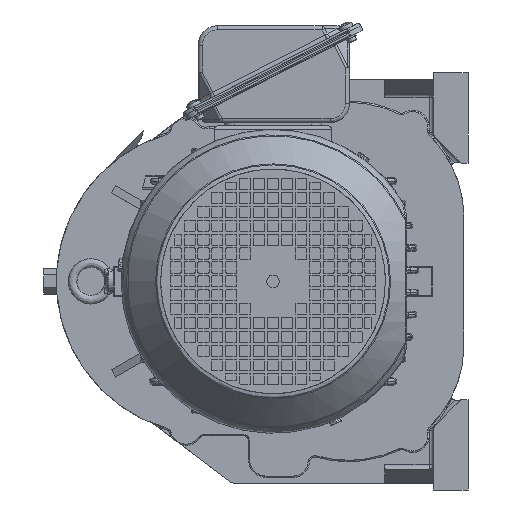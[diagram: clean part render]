
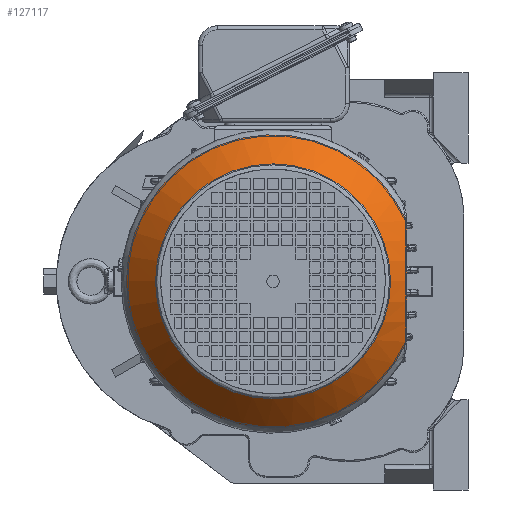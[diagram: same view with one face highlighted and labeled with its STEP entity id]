
A CAD part, left-side view. The second image highlights one B-rep face of the part: STEP entity #127117.
In plain terms, the highlighted conical face has half-angle 41.906 degrees and reference radius 105.414 mm.
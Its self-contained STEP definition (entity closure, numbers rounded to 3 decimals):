
#559 = CARTESIAN_POINT ( 'NONE',  ( 15284.564, 1874.136, 1274.796 ) ) ;
#1438 = CARTESIAN_POINT ( 'NONE',  ( 15282.773, 1874.136, 1267.499 ) ) ;
#3225 = CARTESIAN_POINT ( 'NONE',  ( 15284.552, 1874.136, 1222.84 ) ) ;
#4353 = EDGE_CURVE ( 'NONE', #126880, #126880, #62680, .T. ) ;
#7832 = ORIENTED_EDGE ( 'NONE', *, *, #4353, .T. ) ;
#13966 = CARTESIAN_POINT ( 'NONE',  ( 15288.241, 1874.136, 1212.175 ) ) ;
#15554 = DIRECTION ( 'NONE',  ( 0., -1., 0. ) ) ;
#20680 = CONICAL_SURFACE ( 'NONE', #134667, 105.414, 0.731 ) ;
#24731 = CARTESIAN_POINT ( 'NONE',  ( 15291.271, 1874.136, 1292.342 ) ) ;
#25190 = EDGE_LOOP ( 'NONE', ( #7832 ) ) ;
#29087 = CARTESIAN_POINT ( 'NONE',  ( 15280.782, 1874.136, 1252.551 ) ) ;
#32194 = AXIS2_PLACEMENT_3D ( 'NONE', #70178, #137812, #15554 ) ;
#40682 = EDGE_LOOP ( 'NONE', ( #173284, #119526 ) ) ;
#41357 = CARTESIAN_POINT ( 'NONE',  ( 15267.956, 1970.136, 1248.799 ) ) ;
#42496 = CARTESIAN_POINT ( 'NONE',  ( 15281.024, 1874.136, 1241.345 ) ) ;
#43365 = CARTESIAN_POINT ( 'NONE',  ( 15291.271, 1874.136, 1205.255 ) ) ;
#44247 = CARTESIAN_POINT ( 'NONE',  ( 15281.744, 1874.136, 1235.757 ) ) ;
#46415 = CARTESIAN_POINT ( 'NONE',  ( 15267.956, 1885.646, 1248.799 ) ) ;
#54113 = CARTESIAN_POINT ( 'NONE',  ( 15289.689, 1874.136, 1208.693 ) ) ;
#55009 = CARTESIAN_POINT ( 'NONE',  ( 15283.399, 1874.136, 1227.413 ) ) ;
#62680 = CIRCLE ( 'NONE', #168098, 84.49 ) ;
#67691 = CARTESIAN_POINT ( 'NONE',  ( 15289.69, 1874.136, 1288.908 ) ) ;
#68554 = CARTESIAN_POINT ( 'NONE',  ( 15282.771, 1874.136, 1230.177 ) ) ;
#70178 = CARTESIAN_POINT ( 'NONE',  ( 15291.271, 1970.136, 1248.799 ) ) ;
#70336 = CARTESIAN_POINT ( 'NONE',  ( 15283.184, 1874.136, 1269.335 ) ) ;
#81856 = DIRECTION ( 'NONE',  ( 1., 0., 0. ) ) ;
#83678 = CARTESIAN_POINT ( 'NONE',  ( 15281.027, 1874.136, 1256.294 ) ) ;
#84484 = FACE_BOUND ( 'NONE', #25190, .T. ) ;
#85438 = CARTESIAN_POINT ( 'NONE',  ( 15285.672, 1874.136, 1219.249 ) ) ;
#86211 = B_SPLINE_CURVE_WITH_KNOTS ( 'NONE', 3,
 ( #24731, #67691, #112255, #123860, #559, #70336, #1438, #153120, #97961, #165632, #164764, #83678, #29087, #96227, #42496, #44247, #137970, #150499, #68554, #122970, #55009, #3225, #85438, #13966, #54113, #43365 ),
 .UNSPECIFIED., .F., .F.,
 ( 4, 2, 2, 2, 2, 2, 2, 2, 2, 2, 2, 2, 4 ),
 ( 0., 0.011, 0.022, 0.028, 0.031, 0.034, 0.045, 0.056, 0.062, 0.065, 0.067, 0.079, 0.09 ),
 .UNSPECIFIED. ) ;
#93325 = DIRECTION ( 'NONE',  ( 0., -1., 0. ) ) ;
#96227 = CARTESIAN_POINT ( 'NONE',  ( 15280.781, 1874.136, 1245.077 ) ) ;
#96820 = VERTEX_POINT ( 'NONE', #158804 ) ;
#97961 = CARTESIAN_POINT ( 'NONE',  ( 15282.073, 1874.136, 1263.79 ) ) ;
#111289 = CARTESIAN_POINT ( 'NONE',  ( 15291.271, 1970.136, 1248.799 ) ) ;
#112255 = CARTESIAN_POINT ( 'NONE',  ( 15288.244, 1874.136, 1285.431 ) ) ;
#119526 = ORIENTED_EDGE ( 'NONE', *, *, #149982, .F. ) ;
#122033 = DIRECTION ( 'NONE',  ( 0., -1., 0. ) ) ;
#122970 = CARTESIAN_POINT ( 'NONE',  ( 15283.181, 1874.136, 1228.331 ) ) ;
#123860 = CARTESIAN_POINT ( 'NONE',  ( 15285.681, 1874.136, 1278.375 ) ) ;
#126880 = VERTEX_POINT ( 'NONE', #46415 ) ;
#127117 = ADVANCED_FACE ( 'NONE', ( #162921, #84484 ), #20680, .T. ) ;
#132326 = EDGE_CURVE ( 'NONE', #96820, #166110, #86211, .T. ) ;
#134667 = AXIS2_PLACEMENT_3D ( 'NONE', #111289, #81856, #122033 ) ;
#137812 = DIRECTION ( 'NONE',  ( 1., 0., 0. ) ) ;
#137970 = CARTESIAN_POINT ( 'NONE',  ( 15282.043, 1874.136, 1233.896 ) ) ;
#149982 = EDGE_CURVE ( 'NONE', #166110, #96820, #174692, .T. ) ;
#150499 = CARTESIAN_POINT ( 'NONE',  ( 15282.578, 1874.136, 1231.106 ) ) ;
#153120 = CARTESIAN_POINT ( 'NONE',  ( 15282.238, 1874.136, 1264.72 ) ) ;
#154673 = CARTESIAN_POINT ( 'NONE',  ( 15291.271, 1874.136, 1205.255 ) ) ;
#158804 = CARTESIAN_POINT ( 'NONE',  ( 15291.271, 1874.136, 1292.342 ) ) ;
#161833 = DIRECTION ( 'NONE',  ( 1., 0., 0. ) ) ;
#162921 = FACE_OUTER_BOUND ( 'NONE', #40682, .T. ) ;
#164764 = CARTESIAN_POINT ( 'NONE',  ( 15281.634, 1874.136, 1260.981 ) ) ;
#165632 = CARTESIAN_POINT ( 'NONE',  ( 15281.771, 1874.136, 1261.92 ) ) ;
#166110 = VERTEX_POINT ( 'NONE', #154673 ) ;
#168098 = AXIS2_PLACEMENT_3D ( 'NONE', #41357, #161833, #93325 ) ;
#173284 = ORIENTED_EDGE ( 'NONE', *, *, #132326, .F. ) ;
#174692 = CIRCLE ( 'NONE', #32194, 105.414 ) ;
